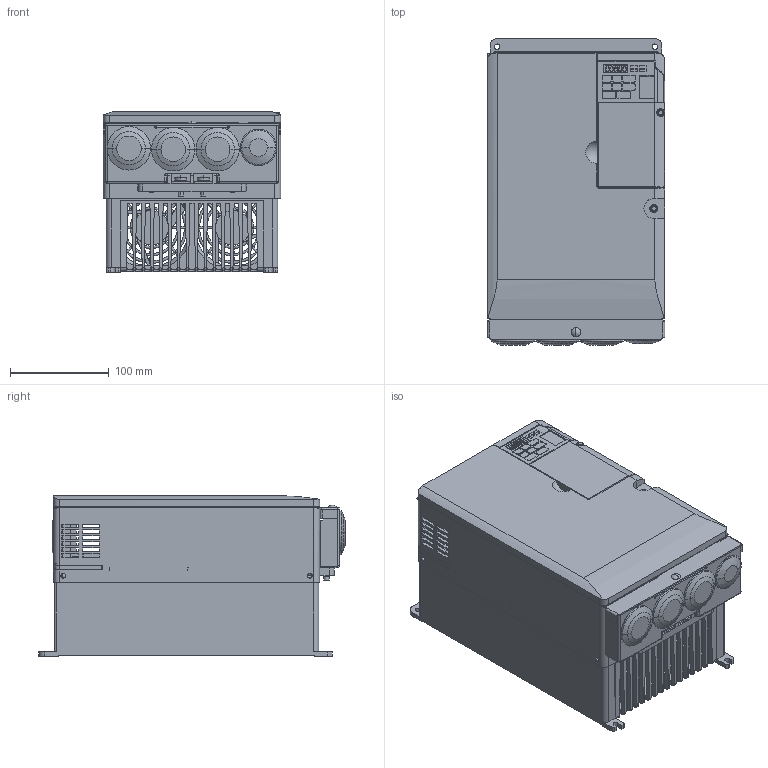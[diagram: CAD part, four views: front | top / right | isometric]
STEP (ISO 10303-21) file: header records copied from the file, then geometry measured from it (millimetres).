
FILE_DESCRIPTION((''),'2;1');
FILE_NAME('VU4A0038FAA_ASM','2009-09-03T',('jeffm'),(''),'PRO/ENGINEER BY PARAMETRIC TECHNOLOGY CORPORATION, 2007390','PRO/ENGINEER BY PARAMETRIC TECHNOLOGY CORPORATION, 2007390','');
FILE_SCHEMA(('CONFIG_CONTROL_DESIGN'));
Products named in the file (11): 4A0038FAA_BASE; 4A0038FAA_COVER1; 4A0038FAA_COVER2; 4A0038FAA_COVER3; 4A0038FAA_COVER4; 4A0038FAA_COVER5; 4A0038FAA_COVER6; 4A0038FAA_COVER7; 4A0038FAA_GROMMET1; 4A0038FAA_GROMMET2; VU4A0038FAA_ASM
Assembly tree (12 placements, depth 2):
  VU4A0038FAA_ASM
    4A0038FAA_BASE
    4A0038FAA_COVER1
    4A0038FAA_COVER2
    4A0038FAA_COVER3
    4A0038FAA_COVER4
    4A0038FAA_COVER5
    4A0038FAA_COVER6
    4A0038FAA_COVER7
    4A0038FAA_GROMMET1  x3
    4A0038FAA_GROMMET2
Bounding box: 180 x 311.09 x 163.35 mm (x, y, z)
Volume: 240691.5 mm3; surface area: 1101749.3 mm2
Topology: 11 solids, 15 shells, 6561 faces, 18614 edges, 11992 vertices
Faces by surface type: plane 4781, cylinder 1179, extrusion 223, torus 142, sphere 128, cone 104, bspline 4
Entity records: 218348 total; most frequent: CARTESIAN_POINT 48650, ORIENTED_EDGE 37044, DIRECTION 32625, EDGE_CURVE 18528, VECTOR 14235, LINE 14012, VERTEX_POINT 11944, AXIS2_PLACEMENT_3D 9195
